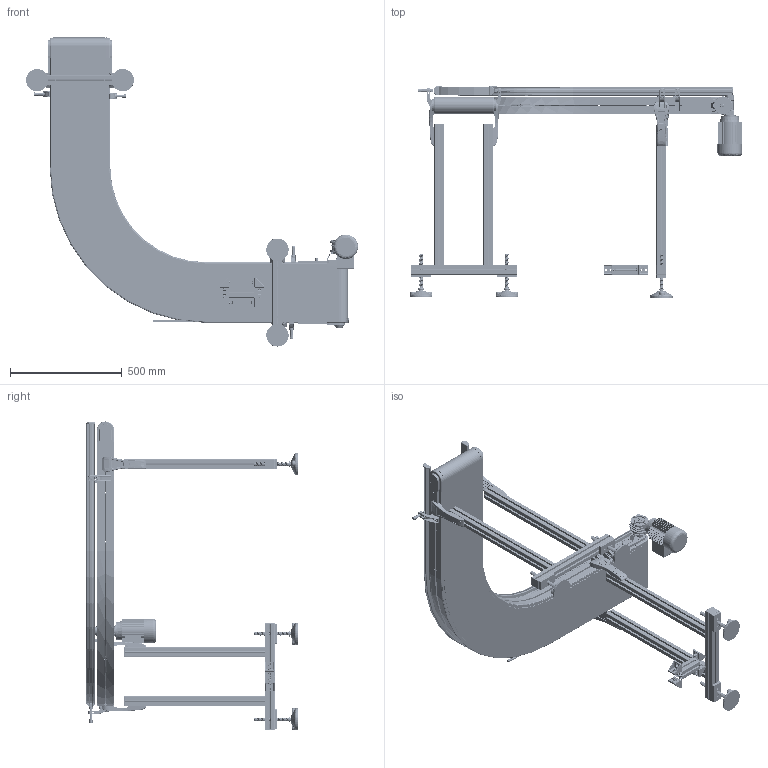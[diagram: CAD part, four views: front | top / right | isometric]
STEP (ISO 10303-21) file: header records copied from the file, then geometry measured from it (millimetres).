
FILE_DESCRIPTION (( 'STEP AP203' ), '1' );
FILE_NAME ('NASTRO_3020.step', '2026-06-02T14:41:25', ( 'Utente Windows' ), ( '' ), 'SwSTEP 2.0', 'SolidWorks 2024', '' );
FILE_SCHEMA (( 'CONFIG_CONTROL_DESIGN' ));
Length unit declared in the file: millimetre
Products named in the file (56): 084.802.078_chiuso con cono; 084.201.012-1; FLANGIA_GAMBA; 084.802.008; 084.711.006_L1; PIEDE; 3020.009.007; 084.712.002; CHIAVETTE_A 5x5x50 UNI 6604-69; 084.301.000 VITI ALUSIC_084.301.003; 084.807.014_084.807.002; VITI TE UNI 5739_M6x16 UNI 5739; 2010.000.069; 3020.000.007; 3020.009.130_DX; 3020.000.005; 2010.000.068_L; 084.808.012; 084.711.006_L2; 084.711.010; CHIAVETTE_A 5x5x30 UNI 6604-69; RONDELLE UNI 6592_8.4x17 UNI 6592; 084.802.017_084.802.017; 3020.009.200; 084.802.062; CURVA_3020_9_SX_Default<A macchina>; NASTRO_3020; 084.802.077_chiuso; 084.302.000 DADI ALUSIC 13x13-1_084.302.009; 084.305.003-1; 084.402.005; 2010.000.070; TRAVERSA_SINGOLA_Default<A macchina>; 084.711.005; ANGOLARE_43; TELAIO_3020_9_1_Default<A macchina>; DADI ESAGONALI NORMALI UNI 5588_M6 UNI 5588; 084.301.000 VITI ALUSIC1_084.301.003; SPONDA_L_DX_Default<A macchina>; 3020.009.002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
Assembly tree (131 placements, depth 4):
  NASTRO_3020
    CATENA_3020_LDX
    3020.009.130_DX
      084.807.003_084.807.003<A macchina>  x2
      084.802.017_084.802.017  x2
      084.301.000 VITI ALUSIC_084.301.003  x4
      084.302.000 DADI ALUSIC 13x13_084.302.004  x4
      3020.009.007
      VITI TSEI UNI 5933 INOX_0410UNI5933A2  x4
      CHIAVETTE_A 5x5x50 UNI 6604-69
      CHIAVETTE_A 5x5x30 UNI 6604-69  x3
      3020.000.005  x3
      RONDELLE FASCIA LARGA UNI 6593_6.4x24 UNI 6593
      VITI TE UNI 5739_M6x16 UNI 5739
      084.802.077_chiuso
      084.802.078_chiuso con cono
      084.808.012
      VITI TE UNI 5739_M8x16 UNI 5739
      084.802.062
      RONDELLE UNI 6592_8.4x17 UNI 6592
    CURVA_3020_9_SX_Default<A macchina>
    3020.009.200
      084.802.008  x2
      084.301.000 VITI ALUSIC_084.301.003  x6
      084.302.000 DADI ALUSIC 13x13_084.302.004  x6
      3020.000.007
      3020.009.002
      084.807.014_084.807.002  x2
      084.802.076_chiuso  x2
      VITI TSEI UNI 5933 INOX_0410UNI5933A2  x4
    084.307.006
    TELAIO_3020_9_1_Default<A macchina>
    TELAIO_3020_9_7_Default<A macchina>
    084.712.002  x4
    084.711.006_PER CAVA 8 PERNO ALTO 1  x8
      084.711.006_L1
      084.711.006_L2
      084.711.007
      084.711.005
      084.711.010
      DADI ESAGONALI NORMALI UNI 5588_M6 UNI 5588
    SPONDA_L_DX_Default<A macchina>
    GAMBE_3020_Default<A macchina>  x2
    FLANGIA_GAMBA  x4
      084.302.000 DADI ALUSIC 13x13-1_084.302.004
      RONDELLE UNI 6592_8.4x17 UNI 6592
      084.301.000 VITI ALUSIC_084.301.003
      2010.000.068
        2010.000.068_L
        2010.000.069
        2010.000.070
    PIEDE  x4
      084.405.001
      084.402.005
      084.301.000 VITI ALUSIC1_084.301.003
    084.201.012-1  x8
    ANGOLARE_43  x4
      084.305.003-1
      084.302.000 DADI ALUSIC 13x13-1_084.302.009
      084.301.000 VITI ALUSIC_084.301.003
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Bounding box: 1488.59 x 946.15 x 1385.64 mm (x, y, z)
Volume: 24911467.8 mm3; surface area: 8460829.7 mm2
Topology: 287 solids, 291 shells, 14919 faces, 38585 edges, 24402 vertices
Faces by surface type: plane 6132, cylinder 5086, cone 1303, bspline 1284, torus 954, sphere 160
Entity records: 217799 total; most frequent: CARTESIAN_POINT 69740, ORIENTED_EDGE 30396, DIRECTION 28249, EDGE_CURVE 15198, AXIS2_PLACEMENT_3D 9771, VERTEX_POINT 9733, LINE 8707, VECTOR 8707
